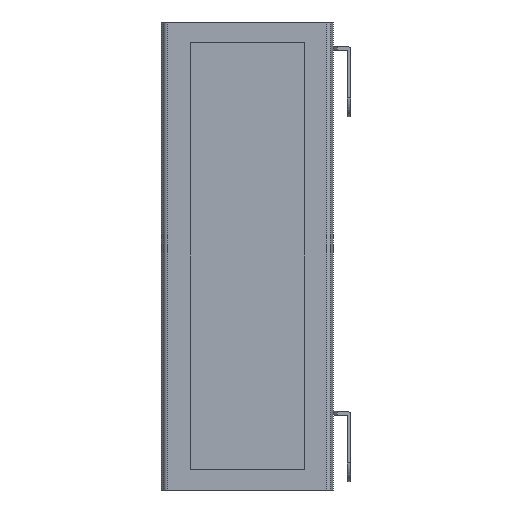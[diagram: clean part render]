
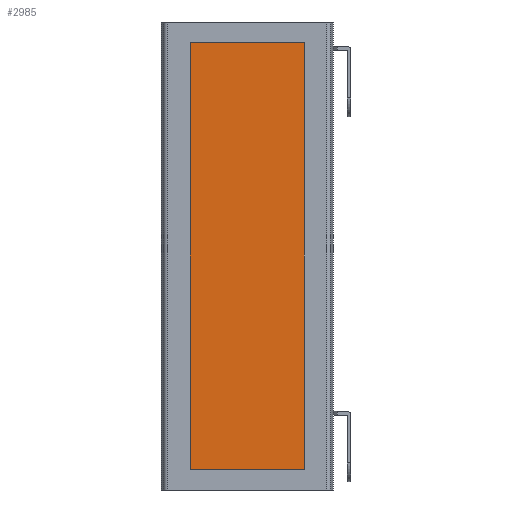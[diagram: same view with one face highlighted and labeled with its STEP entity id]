
A CAD part, left-side view. The second image highlights one B-rep face of the part: STEP entity #2985.
In plain terms, the highlighted planar face has unit normal (-1, 0, 0) as drawn and (0, 1, 0) by its records, which use the part's own axes.
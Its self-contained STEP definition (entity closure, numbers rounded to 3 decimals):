
#186=PLANE('',#3330);
#327=FACE_OUTER_BOUND('',#525,.T.);
#525=EDGE_LOOP('',(#2644,#2645,#2646,#2647));
#776=LINE('',#4966,#1060);
#779=LINE('',#4972,#1063);
#782=LINE('',#4978,#1066);
#785=LINE('',#4982,#1069);
#1060=VECTOR('',#4100,10.);
#1063=VECTOR('',#4105,10.);
#1066=VECTOR('',#4110,10.);
#1069=VECTOR('',#4115,10.);
#1494=VERTEX_POINT('',#4963);
#1495=VERTEX_POINT('',#4965);
#1497=VERTEX_POINT('',#4971);
#1499=VERTEX_POINT('',#4977);
#1886=EDGE_CURVE('',#1494,#1495,#776,.T.);
#1889=EDGE_CURVE('',#1495,#1497,#779,.T.);
#1892=EDGE_CURVE('',#1497,#1499,#782,.T.);
#1895=EDGE_CURVE('',#1499,#1494,#785,.T.);
#2644=ORIENTED_EDGE('',*,*,#1889,.F.);
#2645=ORIENTED_EDGE('',*,*,#1886,.F.);
#2646=ORIENTED_EDGE('',*,*,#1895,.F.);
#2647=ORIENTED_EDGE('',*,*,#1892,.F.);
#2985=ADVANCED_FACE('',(#327),#186,.T.);
#3330=AXIS2_PLACEMENT_3D('',#4983,#4116,#4117);
#4100=DIRECTION('',(0.,0.,-1.));
#4105=DIRECTION('',(1.,0.,0.));
#4110=DIRECTION('',(0.,0.,1.));
#4115=DIRECTION('',(-1.,0.,0.));
#4116=DIRECTION('center_axis',(0.,1.,0.));
#4117=DIRECTION('ref_axis',(-1.,0.,0.));
#4963=CARTESIAN_POINT('',(-45.477,296.261,170.));
#4965=CARTESIAN_POINT('',(-45.477,296.261,-170.));
#4966=CARTESIAN_POINT('',(-45.477,296.261,172.));
#4971=CARTESIAN_POINT('',(45.477,296.261,-170.));
#4972=CARTESIAN_POINT('',(-49.,296.261,-170.));
#4977=CARTESIAN_POINT('',(45.477,296.261,170.));
#4978=CARTESIAN_POINT('',(45.477,296.261,-172.));
#4982=CARTESIAN_POINT('',(49.,296.261,170.));
#4983=CARTESIAN_POINT('Origin',(0.,296.261,0.));
